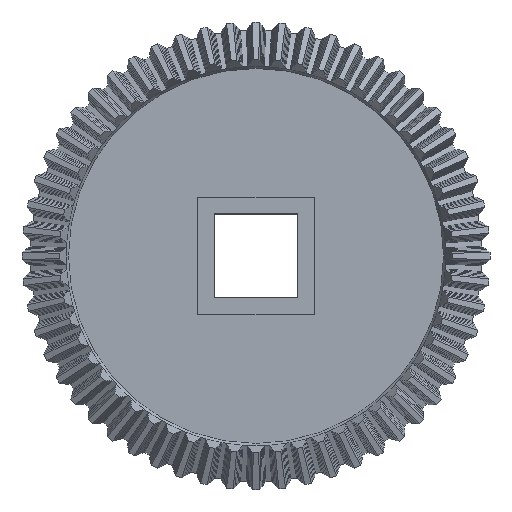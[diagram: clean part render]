
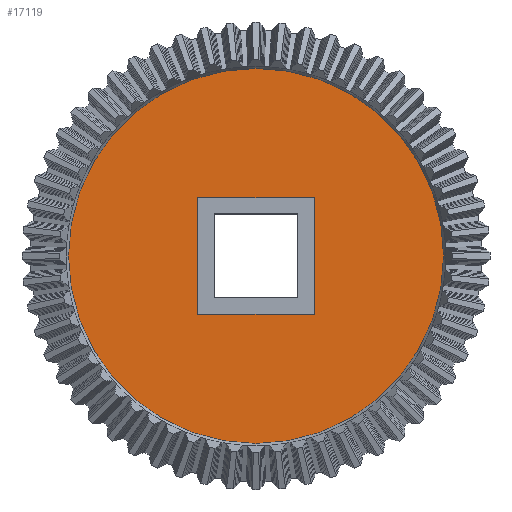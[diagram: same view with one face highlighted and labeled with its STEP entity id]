
A CAD part, top view. The second image highlights one B-rep face of the part: STEP entity #17119.
In plain terms, the highlighted planar face has unit normal (0, 0, 1).
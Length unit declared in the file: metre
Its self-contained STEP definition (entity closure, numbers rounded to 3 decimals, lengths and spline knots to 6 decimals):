
#294=LINE('',#23716,#2558);
#295=LINE('',#23719,#2559);
#296=LINE('',#23721,#2560);
#297=LINE('',#23723,#2561);
#2558=VECTOR('',#19182,1.);
#2559=VECTOR('',#19183,1.);
#2560=VECTOR('',#19184,1.);
#2561=VECTOR('',#19185,1.);
#4822=ORIENTED_EDGE('',*,*,#10026,.F.);
#4823=ORIENTED_EDGE('',*,*,#10027,.F.);
#4824=ORIENTED_EDGE('',*,*,#10028,.F.);
#4825=ORIENTED_EDGE('',*,*,#10029,.T.);
#4826=ORIENTED_EDGE('',*,*,#10030,.T.);
#10026=EDGE_CURVE('',#12628,#12628,#14326,.T.);
#10027=EDGE_CURVE('',#12629,#12630,#294,.T.);
#10028=EDGE_CURVE('',#12631,#12629,#295,.T.);
#10029=EDGE_CURVE('',#12631,#12632,#296,.T.);
#10030=EDGE_CURVE('',#12632,#12630,#297,.T.);
#12628=VERTEX_POINT('',#23715);
#12629=VERTEX_POINT('',#23717);
#12630=VERTEX_POINT('',#23718);
#12631=VERTEX_POINT('',#23720);
#12632=VERTEX_POINT('',#23722);
#14326=CIRCLE('',#18042,0.022808);
#14440=EDGE_LOOP('',(#4822));
#14441=EDGE_LOOP('',(#4823,#4824,#4825,#4826));
#15354=FACE_BOUND('',#14440,.T.);
#15355=FACE_BOUND('',#14441,.T.);
#16268=PLANE('',#18041);
#17119=ADVANCED_FACE('',(#15354,#15355),#16268,.T.);
#18041=AXIS2_PLACEMENT_3D('',#23713,#19178,#19179);
#18042=AXIS2_PLACEMENT_3D('',#23714,#19180,#19181);
#19178=DIRECTION('',(0.,0.,1.));
#19179=DIRECTION('',(1.,0.,0.));
#19180=DIRECTION('',(0.,0.,-1.));
#19181=DIRECTION('',(-1.,0.,0.));
#19182=DIRECTION('',(0.,1.,0.));
#19183=DIRECTION('',(1.,0.,0.));
#19184=DIRECTION('',(0.,1.,0.));
#19185=DIRECTION('',(1.,0.,0.));
#23713=CARTESIAN_POINT('',(0.011404,0.,-0.047585));
#23714=CARTESIAN_POINT('',(0.,0.,-0.047585));
#23715=CARTESIAN_POINT('',(-0.022808,0.,-0.047585));
#23716=CARTESIAN_POINT('',(0.0071,0.,-0.047585));
#23717=CARTESIAN_POINT('',(0.0071,-0.0071,-0.047585));
#23718=CARTESIAN_POINT('',(0.0071,0.0071,-0.047585));
#23719=CARTESIAN_POINT('',(0.,-0.0071,-0.047585));
#23720=CARTESIAN_POINT('',(-0.0071,-0.0071,-0.047585));
#23721=CARTESIAN_POINT('',(-0.0071,0.,-0.047585));
#23722=CARTESIAN_POINT('',(-0.0071,0.0071,-0.047585));
#23723=CARTESIAN_POINT('',(0.,0.0071,-0.047585));
